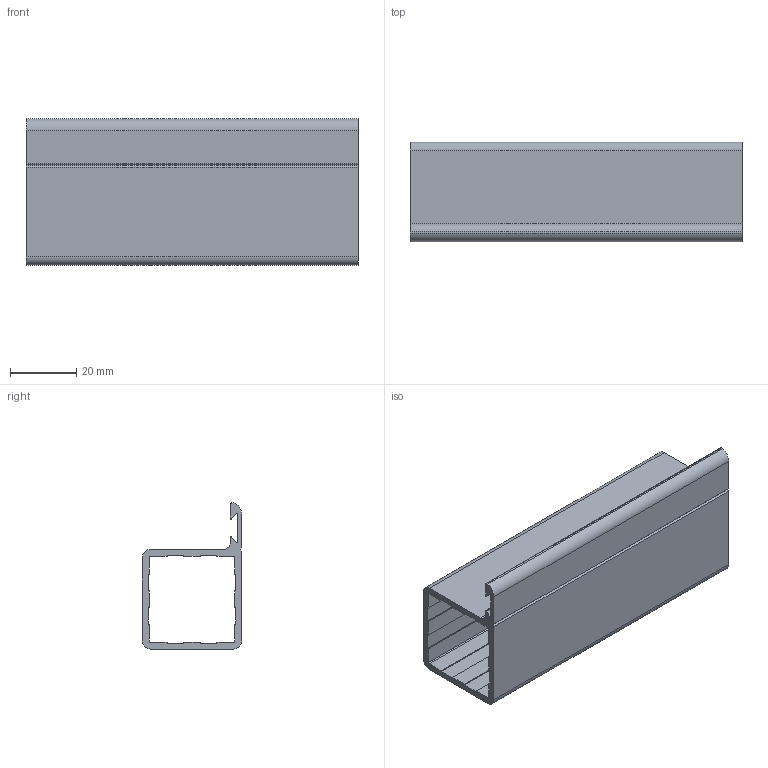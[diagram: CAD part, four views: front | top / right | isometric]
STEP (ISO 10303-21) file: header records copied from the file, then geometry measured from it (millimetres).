
FILE_DESCRIPTION (( 'STEP AP203' ), '1' );
FILE_NAME ('B30052A.STEP', '2017-03-22T12:30:56', ( 'Localadmin' ), ( 'Microsoft' ), 'SwSTEP 2.0', 'SolidWorks 2016', '' );
FILE_SCHEMA (( 'CONFIG_CONTROL_DESIGN' ));
Length unit declared in the file: millimetre
Products named in the file (1): B30052A
Bounding box: 100 x 30 x 44 mm (x, y, z)
Volume: 25056.4 mm3; surface area: 26411.3 mm2
Topology: 1 solids, 1 shells, 67 faces, 195 edges, 130 vertices
Faces by surface type: plane 51, cylinder 16
Entity records: 2282 total; most frequent: CARTESIAN_POINT 393, ORIENTED_EDGE 390, DIRECTION 363, EDGE_CURVE 195, VECTOR 163, LINE 163, VERTEX_POINT 130, AXIS2_PLACEMENT_3D 100
